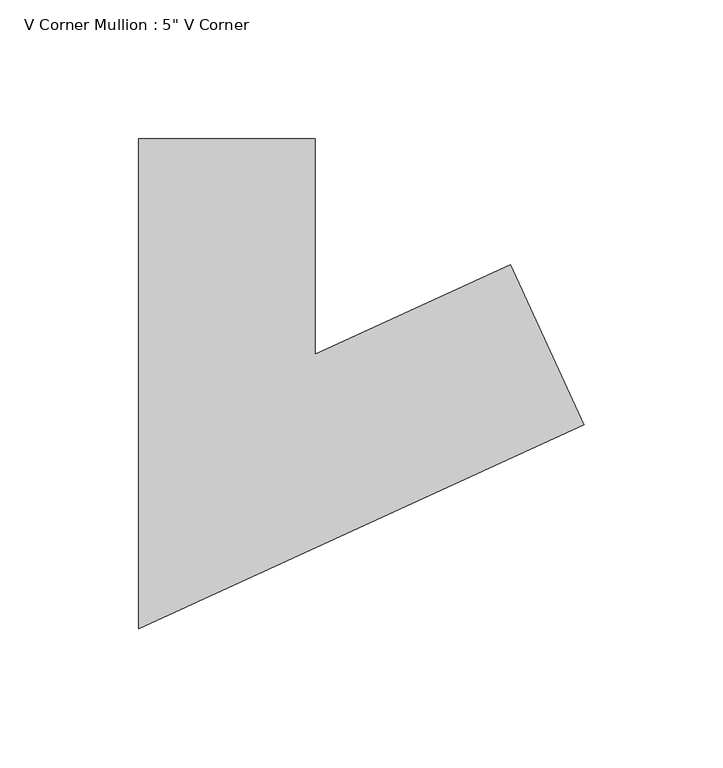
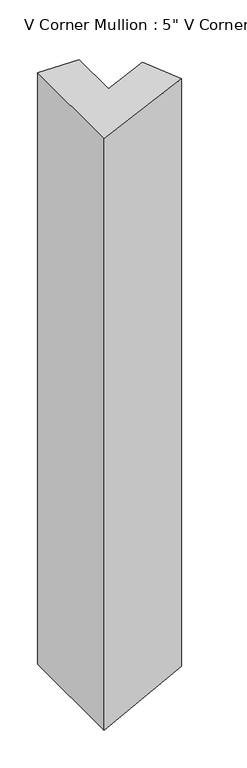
"""IFC4 building model written with IfcOpenShell, lengths in millimetres: member geometry."""

from ifc_helpers import new_model, si_unit, origin, place, context, project, spatial, faceted_brep, source, transform, mapped, element, save


def member_5b2668ac(model_context):
    return source(origin(), model_context, "Body", "Brep", [
        faceted_brep([(61.49523, 18.2208415, -1.457894), (87.9205542, -39.5195451, -2.0843706), (87.9205542, -39.5195451, -951.1705941), (61.49523, 18.2208415, -951.6524993), (-9.0228811, -14.0523047, 0.2139093), (-9.0228811, -14.0523047, -952.9385023), (-9.0228811, 63.5, 0.2139093), (-9.0228811, 63.5, -952.9385023), (-72.5228811, 63.5, 1.7193313), (-72.5228811, 63.5, -954.0965195), (-72.5228811, -112.9476953, 1.7193313), (-72.5228811, -112.9476953, -954.0965195)], [[[0, 1, 2, 3]], [[4, 0, 3, 5]], [[6, 4, 5, 7]], [[8, 6, 7, 9]], [[10, 8, 9, 11]], [[1, 10, 11, 2]], [[1, 0, 4, 6, 8, 10]], [[2, 11, 9, 7, 5, 3]]]),
    ])


if __name__ == "__main__":
    model = new_model("IFC4")
    model_context = context("Model", 3, world=origin())
    ifc_project = project(units=[si_unit("LENGTHUNIT", "METRE", prefix="MILLI")], contexts=[model_context])
    site = spatial("IfcSite", under=ifc_project)
    building = spatial("IfcBuilding", under=site)
    placement = place(None, origin())
    member_shape = member_5b2668ac(model_context)
    element("IfcMember", 1, ObjectType="V Corner Mullion : 5\" V Corner", at=placement, inside=building, context=model_context, shape_type="MappedRepresentation", body=[
        mapped(member_shape, transform((0.0, 0.0, 0.0), x_axis=(1.0, 0.0, 0.0), y_axis=(0.0, 1.0, 0.0), z_axis=(0.0, 0.0, 1.0))),
    ])
    save(model, "model.ifc")
